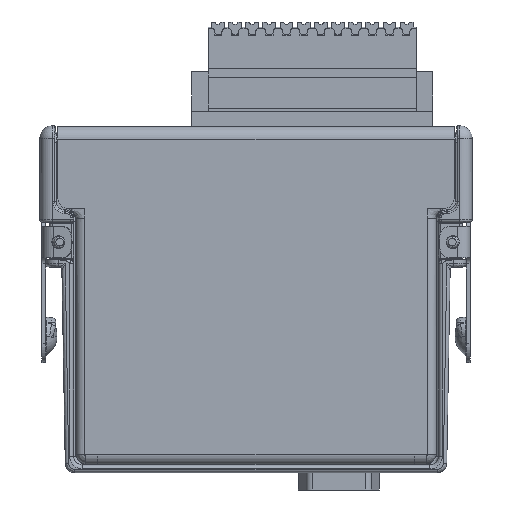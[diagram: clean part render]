
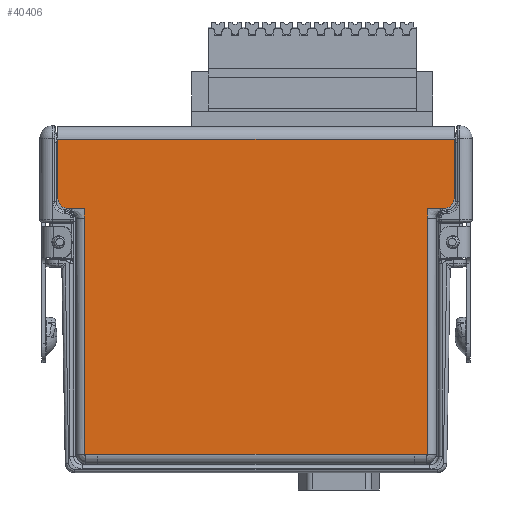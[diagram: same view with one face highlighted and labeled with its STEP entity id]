
A CAD part, left-side view. The second image highlights one B-rep face of the part: STEP entity #40406.
In plain terms, the highlighted planar face has unit normal (-1, 0, 0).
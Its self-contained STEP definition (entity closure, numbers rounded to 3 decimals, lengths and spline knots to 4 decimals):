
#13351=DIRECTION('',(0.,-1.,0.));
#13352=VECTOR('',#13351,3.179);
#13353=CARTESIAN_POINT('',(-0.4475,1.5895,2.676));
#13354=LINE('',#13353,#13352);
#13447=CARTESIAN_POINT('',(-0.4475,1.5095,2.2));
#13448=DIRECTION('',(-1.,0.,0.));
#13449=DIRECTION('',(0.,1.,0.));
#13450=AXIS2_PLACEMENT_3D('',#13447,#13448,#13449);
#13452=DIRECTION('',(0.,-1.,0.));
#13453=VECTOR('',#13452,0.133);
#13454=CARTESIAN_POINT('',(-0.4475,1.5095,2.12));
#13455=LINE('',#13454,#13453);
#13464=DIRECTION('',(0.,0.,-1.));
#13465=VECTOR('',#13464,0.476);
#13466=CARTESIAN_POINT('',(-0.4475,1.5895,2.676));
#13467=LINE('',#13466,#13465);
#13468=DIRECTION('',(0.,0.,1.));
#13469=VECTOR('',#13468,0.476);
#13470=CARTESIAN_POINT('',(-0.4475,-1.5895,2.2));
#13471=LINE('',#13470,#13469);
#13472=DIRECTION('',(0.,0.,1.));
#13473=VECTOR('',#13472,0.079);
#13474=CARTESIAN_POINT('',(-0.4475,-1.3765,2.041));
#13475=LINE('',#13474,#13473);
#13476=DIRECTION('',(0.,-1.,0.));
#13477=VECTOR('',#13476,0.105);
#13478=CARTESIAN_POINT('',(-0.4475,-1.2715,0.146));
#13479=LINE('',#13478,#13477);
#13480=DIRECTION('',(0.,-1.,0.));
#13481=VECTOR('',#13480,0.105);
#13482=CARTESIAN_POINT('',(-0.4475,1.3765,0.146));
#13483=LINE('',#13482,#13481);
#13484=DIRECTION('',(0.,0.,1.));
#13485=VECTOR('',#13484,0.079);
#13486=CARTESIAN_POINT('',(-0.4475,1.3765,2.041));
#13487=LINE('',#13486,#13485);
#13505=CARTESIAN_POINT('',(-0.4475,-1.5095,2.2));
#13506=DIRECTION('',(-1.,0.,0.));
#13507=DIRECTION('',(0.,0.,-1.));
#13508=AXIS2_PLACEMENT_3D('',#13505,#13506,#13507);
#13518=DIRECTION('',(0.,-1.,0.));
#13519=VECTOR('',#13518,0.133);
#13520=CARTESIAN_POINT('',(-0.4475,-1.3765,2.12));
#13521=LINE('',#13520,#13519);
#13553=DIRECTION('',(0.,0.,1.));
#13554=VECTOR('',#13553,1.895);
#13555=CARTESIAN_POINT('',(-0.4475,-1.3765,0.146));
#13556=LINE('',#13555,#13554);
#13744=DIRECTION('',(0.,-1.,0.));
#13745=VECTOR('',#13744,2.543);
#13746=CARTESIAN_POINT('',(-0.4475,1.2715,0.146));
#13747=LINE('',#13746,#13745);
#14830=DIRECTION('',(0.,0.,1.));
#14831=VECTOR('',#14830,1.895);
#14832=CARTESIAN_POINT('',(-0.4475,1.3765,0.146));
#14833=LINE('',#14832,#14831);
#21872=CARTESIAN_POINT('',(-0.4475,-1.5895,2.676));
#21873=VERTEX_POINT('',#21872);
#21874=CARTESIAN_POINT('',(-0.4475,1.5895,2.676));
#21875=VERTEX_POINT('',#21874);
#21904=CARTESIAN_POINT('',(-0.4475,1.2715,0.146));
#21905=CARTESIAN_POINT('',(-0.4475,-1.2715,0.146));
#21906=VERTEX_POINT('',#21904);
#21907=VERTEX_POINT('',#21905);
#21916=CARTESIAN_POINT('',(-0.4475,-1.3765,0.146));
#21917=VERTEX_POINT('',#21916);
#21928=CARTESIAN_POINT('',(-0.4475,1.3765,0.146));
#21929=VERTEX_POINT('',#21928);
#21977=CARTESIAN_POINT('',(-0.4475,1.5095,2.12));
#21979=VERTEX_POINT('',#21977);
#21982=CARTESIAN_POINT('',(-0.4475,1.5895,2.2));
#21983=VERTEX_POINT('',#21982);
#21985=CARTESIAN_POINT('',(-0.4475,-1.5895,2.2));
#21987=VERTEX_POINT('',#21985);
#21990=CARTESIAN_POINT('',(-0.4475,-1.5095,2.12));
#21991=VERTEX_POINT('',#21990);
#22004=CARTESIAN_POINT('',(-0.4475,-1.3765,2.041));
#22005=VERTEX_POINT('',#22004);
#22008=CARTESIAN_POINT('',(-0.4475,-1.3765,2.12));
#22009=VERTEX_POINT('',#22008);
#22016=CARTESIAN_POINT('',(-0.4475,1.3765,2.041));
#22017=CARTESIAN_POINT('',(-0.4475,1.3765,2.12));
#22018=VERTEX_POINT('',#22016);
#22019=VERTEX_POINT('',#22017);
#40374=CARTESIAN_POINT('',(-0.4475,0.,1.421));
#40375=DIRECTION('',(-1.,0.,0.));
#40376=DIRECTION('',(0.,1.,0.));
#40377=AXIS2_PLACEMENT_3D('',#40374,#40375,#40376);
#40378=PLANE('',#40377);
#40379=ORIENTED_EDGE('',*,*,#40355,.F.);
#40381=ORIENTED_EDGE('',*,*,#40380,.F.);
#40382=ORIENTED_EDGE('',*,*,#40239,.T.);
#40384=ORIENTED_EDGE('',*,*,#40383,.F.);
#40386=ORIENTED_EDGE('',*,*,#40385,.F.);
#40388=ORIENTED_EDGE('',*,*,#40387,.F.);
#40390=ORIENTED_EDGE('',*,*,#40389,.F.);
#40392=ORIENTED_EDGE('',*,*,#40391,.F.);
#40394=ORIENTED_EDGE('',*,*,#40393,.F.);
#40396=ORIENTED_EDGE('',*,*,#40395,.F.);
#40398=ORIENTED_EDGE('',*,*,#40397,.F.);
#40400=ORIENTED_EDGE('',*,*,#40399,.T.);
#40402=ORIENTED_EDGE('',*,*,#40401,.T.);
#40403=ORIENTED_EDGE('',*,*,#40366,.F.);
#40404=EDGE_LOOP('',(#40379,#40381,#40382,#40384,#40386,#40388,#40390,#40392,
#40394,#40396,#40398,#40400,#40402,#40403));
#40405=FACE_OUTER_BOUND('',#40404,.F.);
#40406=ADVANCED_FACE('',(#40405),#40378,.T.);
#13451=CIRCLE('',#13450,0.08);
#13509=CIRCLE('',#13508,0.08);
#40239=EDGE_CURVE('',#21875,#21873,#13354,.T.);
#40355=EDGE_CURVE('',#21983,#21979,#13451,.T.);
#40366=EDGE_CURVE('',#21979,#22019,#13455,.T.);
#40380=EDGE_CURVE('',#21875,#21983,#13467,.T.);
#40383=EDGE_CURVE('',#21987,#21873,#13471,.T.);
#40385=EDGE_CURVE('',#21991,#21987,#13509,.T.);
#40387=EDGE_CURVE('',#22009,#21991,#13521,.T.);
#40389=EDGE_CURVE('',#22005,#22009,#13475,.T.);
#40391=EDGE_CURVE('',#21917,#22005,#13556,.T.);
#40393=EDGE_CURVE('',#21907,#21917,#13479,.T.);
#40395=EDGE_CURVE('',#21906,#21907,#13747,.T.);
#40397=EDGE_CURVE('',#21929,#21906,#13483,.T.);
#40399=EDGE_CURVE('',#21929,#22018,#14833,.T.);
#40401=EDGE_CURVE('',#22018,#22019,#13487,.T.);
